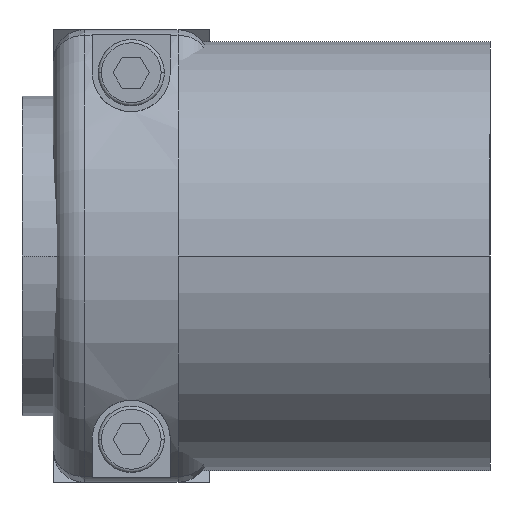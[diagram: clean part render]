
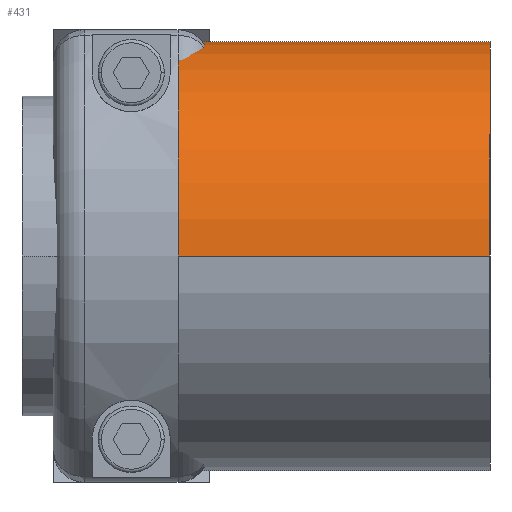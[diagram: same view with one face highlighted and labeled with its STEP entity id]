
A CAD part, left-side view. The second image highlights one B-rep face of the part: STEP entity #431.
In plain terms, the highlighted cylindrical face has radius 27.5 mm (diameter 55 mm), a partial arc.
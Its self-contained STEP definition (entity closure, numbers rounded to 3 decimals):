
#342=CARTESIAN_POINT('',(0.,-20.,0.));
#343=DIRECTION('',(0.,1.,0.));
#344=DIRECTION('',(-1.,0.,0.));
#345=AXIS2_PLACEMENT_3D('',#342,#343,#344);
#347=CARTESIAN_POINT('',(0.,-60.,0.));
#348=DIRECTION('',(0.,-1.,0.));
#349=DIRECTION('',(1.,0.,0.));
#350=AXIS2_PLACEMENT_3D('',#347,#348,#349);
#352=DIRECTION('',(0.,-1.,0.));
#353=VECTOR('',#352,40.);
#354=CARTESIAN_POINT('',(-27.5,-20.,0.));
#355=LINE('',#354,#353);
#366=DIRECTION('',(0.,-1.,0.));
#367=VECTOR('',#366,40.);
#368=CARTESIAN_POINT('',(27.5,-20.,0.));
#369=LINE('',#368,#367);
#370=CARTESIAN_POINT('',(27.5,-20.,0.));
#371=CARTESIAN_POINT('',(-27.5,-20.,0.));
#372=VERTEX_POINT('',#370);
#373=VERTEX_POINT('',#371);
#378=CARTESIAN_POINT('',(27.5,-60.,0.));
#379=CARTESIAN_POINT('',(-27.5,-60.,0.));
#380=VERTEX_POINT('',#378);
#381=VERTEX_POINT('',#379);
#416=CARTESIAN_POINT('',(0.,-20.,0.));
#417=DIRECTION('',(0.,1.,0.));
#418=DIRECTION('',(1.,0.,0.));
#419=AXIS2_PLACEMENT_3D('',#416,#417,#418);
#420=CYLINDRICAL_SURFACE('',#419,27.5);
#422=ORIENTED_EDGE('',*,*,#421,.T.);
#424=ORIENTED_EDGE('',*,*,#423,.T.);
#426=ORIENTED_EDGE('',*,*,#425,.T.);
#428=ORIENTED_EDGE('',*,*,#427,.F.);
#429=EDGE_LOOP('',(#422,#424,#426,#428));
#430=FACE_OUTER_BOUND('',#429,.F.);
#346=CIRCLE('',#345,27.5);
#351=CIRCLE('',#350,27.5);
#421=EDGE_CURVE('',#373,#372,#346,.T.);
#423=EDGE_CURVE('',#372,#380,#369,.T.);
#425=EDGE_CURVE('',#380,#381,#351,.T.);
#427=EDGE_CURVE('',#373,#381,#355,.T.);
#431=ADVANCED_FACE('',(#430),#420,.T.);
